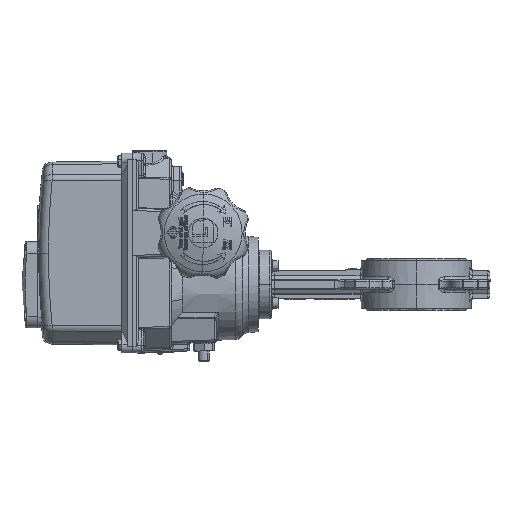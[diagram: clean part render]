
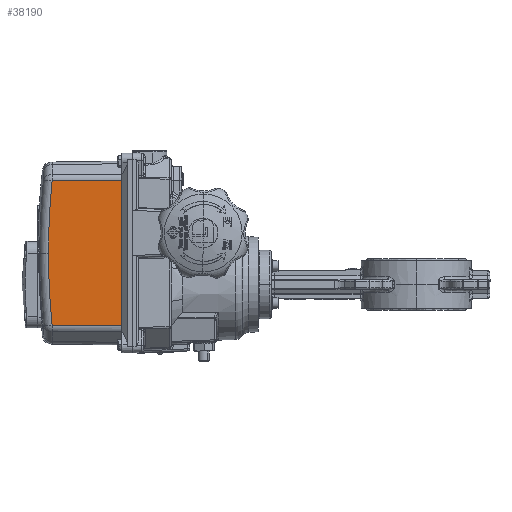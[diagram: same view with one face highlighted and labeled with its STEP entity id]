
A CAD part, left-side view. The second image highlights one B-rep face of the part: STEP entity #38190.
In plain terms, the highlighted planar face has unit normal (-1, 0.013, 0).
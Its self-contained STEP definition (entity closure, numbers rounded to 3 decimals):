
#5279 = CARTESIAN_POINT ( 'NONE',  ( -57.411, 269.826, 98.912 ) ) ;
#16611 = EDGE_LOOP ( 'NONE', ( #115506, #52950, #78726, #70361, #38559 ) ) ;
#16781 = PLANE ( 'NONE',  #74190 ) ;
#17260 = CARTESIAN_POINT ( 'NONE',  ( -57.279, 279.7, 98.858 ) ) ;
#19510 = CARTESIAN_POINT ( 'NONE',  ( -65.589, -339.385, 29.913 ) ) ;
#26230 = DIRECTION ( 'NONE',  ( -1., 0.013, 0. ) ) ;
#26881 = DIRECTION ( 'NONE',  ( 0.013, 1., -0.006 ) ) ;
#27194 = CARTESIAN_POINT ( 'NONE',  ( -57.413, 269.72, -39.088 ) ) ;
#28994 = VERTEX_POINT ( 'NONE', #81722 ) ;
#29795 = VERTEX_POINT ( 'NONE', #131019 ) ;
#35385 = VERTEX_POINT ( 'NONE', #85908 ) ;
#37291 = VECTOR ( 'NONE', #135502, 1000. ) ;
#38142 = DIRECTION ( 'NONE',  ( 0.013, 1., 0. ) ) ;
#38190 = ADVANCED_FACE ( 'NONE', ( #96089 ), #16781, .T. ) ;
#38559 = ORIENTED_EDGE ( 'NONE', *, *, #107284, .T. ) ;
#43458 = DIRECTION ( 'NONE',  ( 0., 0., 1. ) ) ;
#45542 = VECTOR ( 'NONE', #43458, 1000. ) ;
#48730 = EDGE_CURVE ( 'NONE', #63358, #35385, #56156, .T. ) ;
#52950 = ORIENTED_EDGE ( 'NONE', *, *, #57698, .T. ) ;
#55300 = EDGE_CURVE ( 'NONE', #68058, #29795, #55800, .T. ) ;
#55800 = LINE ( 'NONE', #27194, #37291 ) ;
#56156 = LINE ( 'NONE', #5279, #123113 ) ;
#56588 = AXIS2_PLACEMENT_3D ( 'NONE', #19510, #62220, #115663 ) ;
#57698 = EDGE_CURVE ( 'NONE', #29795, #63358, #132706, .T. ) ;
#57700 = CARTESIAN_POINT ( 'NONE',  ( -57.412, 269.734, -41.573 ) ) ;
#60188 = CARTESIAN_POINT ( 'NONE',  ( -65.589, -339.385, 29.913 ) ) ;
#62220 = DIRECTION ( 'NONE',  ( -1., 0.013, 0. ) ) ;
#63358 = VERTEX_POINT ( 'NONE', #17260 ) ;
#68058 = VERTEX_POINT ( 'NONE', #94872 ) ;
#70361 = ORIENTED_EDGE ( 'NONE', *, *, #100438, .T. ) ;
#72243 = CIRCLE ( 'NONE', #56588, 688.92 ) ;
#74190 = AXIS2_PLACEMENT_3D ( 'NONE', #57700, #26230, #101711 ) ;
#78726 = ORIENTED_EDGE ( 'NONE', *, *, #48730, .T. ) ;
#81722 = CARTESIAN_POINT ( 'NONE',  ( -56.342, 349.473, 29.913 ) ) ;
#83013 = AXIS2_PLACEMENT_3D ( 'NONE', #60188, #133357, #38142 ) ;
#85908 = CARTESIAN_POINT ( 'NONE',  ( -56.388, 346.051, 98.489 ) ) ;
#94872 = CARTESIAN_POINT ( 'NONE',  ( -56.388, 346.051, -38.663 ) ) ;
#96089 = FACE_OUTER_BOUND ( 'NONE', #16611, .T. ) ;
#100438 = EDGE_CURVE ( 'NONE', #35385, #28994, #136923, .T. ) ;
#101711 = DIRECTION ( 'NONE',  ( 0.013, 1., 0. ) ) ;
#107284 = EDGE_CURVE ( 'NONE', #28994, #68058, #72243, .T. ) ;
#108210 = CARTESIAN_POINT ( 'NONE',  ( -57.279, 279.7, -41.573 ) ) ;
#115506 = ORIENTED_EDGE ( 'NONE', *, *, #55300, .T. ) ;
#115663 = DIRECTION ( 'NONE',  ( 0.013, 1., 0. ) ) ;
#123113 = VECTOR ( 'NONE', #26881, 1000. ) ;
#131019 = CARTESIAN_POINT ( 'NONE',  ( -57.279, 279.7, -39.032 ) ) ;
#132706 = LINE ( 'NONE', #108210, #45542 ) ;
#133357 = DIRECTION ( 'NONE',  ( -1., 0.013, 0. ) ) ;
#135502 = DIRECTION ( 'NONE',  ( -0.013, -1., -0.006 ) ) ;
#136923 = CIRCLE ( 'NONE', #83013, 688.92 ) ;
